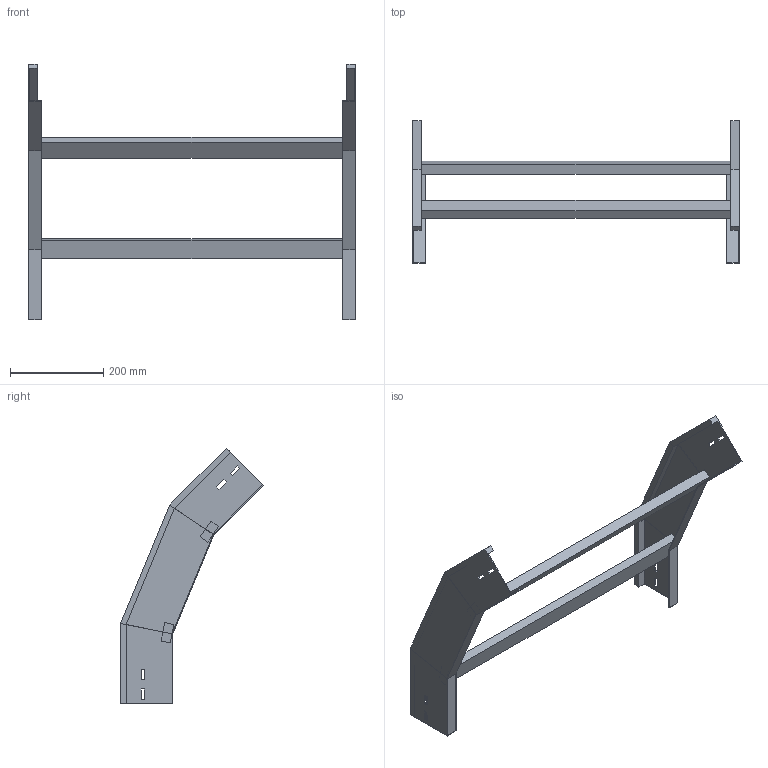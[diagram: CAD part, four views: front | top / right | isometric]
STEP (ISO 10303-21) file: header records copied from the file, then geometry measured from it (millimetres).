
FILE_DESCRIPTION (( 'STEP AP214' ), '1' );
FILE_NAME ('A2_34B3J700.step', '2025-02-21T14:53:27', ( '' ), ( '' ), 'SwSTEP 2.0', 'SolidWorks 2023', '' );
FILE_SCHEMA (( 'AUTOMOTIVE_DESIGN' ));
Length unit declared in the file: millimetre
Products named in the file (3): A2_34B3J700; LONGH.DISCESA_45°_H112.5_R300; TRAVERSINO_700
Assembly tree (5 placements, depth 2):
  A2_34B3J700
    LONGH.DISCESA_45°_H112.5_R300  x2
    TRAVERSINO_700  x3
Bounding box: 700 x 306.58 x 548.11 mm (x, y, z)
Volume: 2236594.3 mm3; surface area: 613500.6 mm2
Topology: 5 solids, 5 shells, 102 faces, 244 edges, 152 vertices
Faces by surface type: plane 102
Entity records: 1480 total; most frequent: CARTESIAN_POINT 244, ORIENTED_EDGE 232, DIRECTION 228, LINE 116, EDGE_CURVE 116, VECTOR 116, VERTEX_POINT 72, EDGE_LOOP 56
